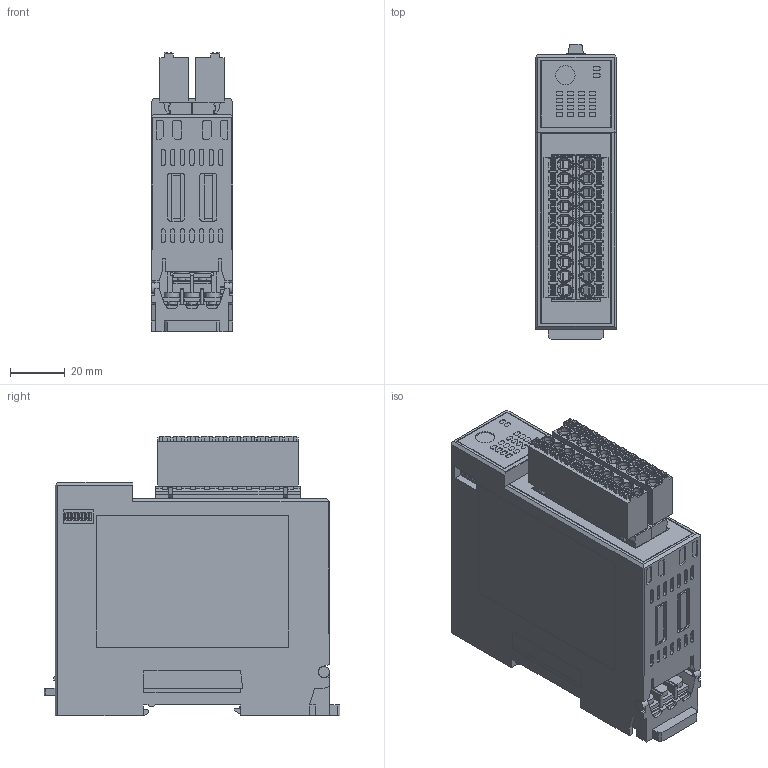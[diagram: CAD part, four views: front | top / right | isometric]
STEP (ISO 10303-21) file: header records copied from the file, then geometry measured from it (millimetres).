
FILE_DESCRIPTION (( 'STEP AP203' ), '1' );
FILE_NAME ('AS_QPM1-PI16仩PC丒CC_260616.STEP', '2026-06-16T07:16:30', ( '' ), ( '' ), 'SwSTEP 2.0', 'SolidWorks 2025', '' );
FILE_SCHEMA (( 'CONFIG_CONTROL_DESIGN' ));
Length unit declared in the file: millimetre
Products named in the file (3): QPM1-PI16□□C_260616_PC・CC; AS_QPM1-PI16□PC・CC_260616; dinkle_2ess-10p
Assembly tree (3 placements, depth 2):
  AS_QPM1-PI16□PC・CC_260616
    QPM1-PI16□□C_260616_PC・CC
    dinkle_2ess-10p  x2
Bounding box: 29.8 x 107.85 x 102 mm (x, y, z)
Volume: 239685 mm3; surface area: 53750.2 mm2
Topology: 3 solids, 3 shells, 4161 faces, 10539 edges, 6606 vertices
Faces by surface type: plane 2265, cylinder 1185, bspline 400, torus 180, cone 131
Entity records: 102028 total; most frequent: CARTESIAN_POINT 30246, ORIENTED_EDGE 15282, DIRECTION 14226, EDGE_CURVE 7641, VECTOR 5322, LINE 5322, VERTEX_POINT 4880, AXIS2_PLACEMENT_3D 4452
